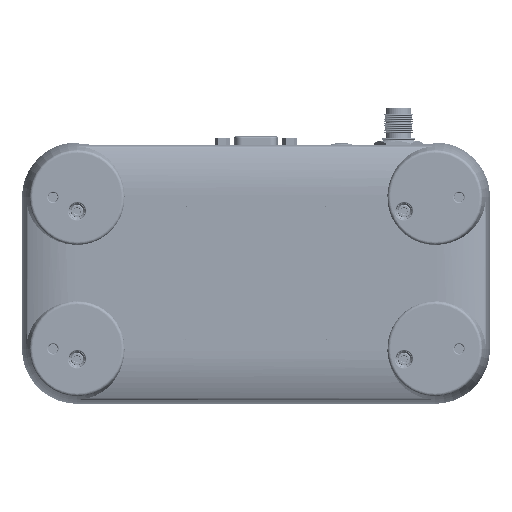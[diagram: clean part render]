
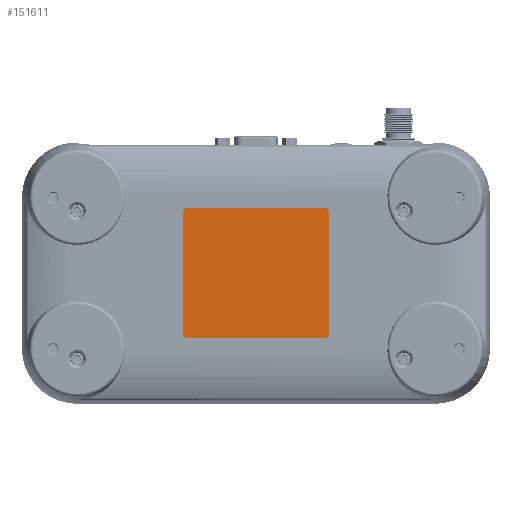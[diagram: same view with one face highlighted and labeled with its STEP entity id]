
A CAD part, front view. The second image highlights one B-rep face of the part: STEP entity #151611.
In plain terms, the highlighted planar face has unit normal (0, -1, 0) as drawn and (0, 1, 0) by its records, which use the part's own axes.
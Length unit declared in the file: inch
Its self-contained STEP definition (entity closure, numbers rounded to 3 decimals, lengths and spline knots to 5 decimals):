
#540 = DIRECTION ( 'NONE',  ( 0., 0., -1. ) ) ;
#1696 = EDGE_CURVE ( 'NONE', #85298, #3237, #230532, .T. ) ;
#2466 = EDGE_CURVE ( 'NONE', #247206, #195638, #137936, .T. ) ;
#3237 = VERTEX_POINT ( 'NONE', #233948 ) ;
#5310 = ORIENTED_EDGE ( 'NONE', *, *, #152542, .T. ) ;
#9139 = DIRECTION ( 'NONE',  ( 0., 0., 1. ) ) ;
#13984 = CIRCLE ( 'NONE', #230272, 0.06 ) ;
#15552 = VECTOR ( 'NONE', #118031, 39.37008 ) ;
#22999 = VECTOR ( 'NONE', #144436, 39.37008 ) ;
#29979 = CARTESIAN_POINT ( 'NONE',  ( 1., 0.01, 0.89 ) ) ;
#34295 = ORIENTED_EDGE ( 'NONE', *, *, #1696, .T. ) ;
#34479 = ORIENTED_EDGE ( 'NONE', *, *, #221594, .T. ) ;
#46403 = CARTESIAN_POINT ( 'NONE',  ( -1., 0.01, -0.89 ) ) ;
#49726 = DIRECTION ( 'NONE',  ( 0., 0., 1. ) ) ;
#52863 = DIRECTION ( 'NONE',  ( 0., -1., 0. ) ) ;
#56272 = VECTOR ( 'NONE', #220424, 39.37008 ) ;
#62445 = AXIS2_PLACEMENT_3D ( 'NONE', #244226, #126568, #9139 ) ;
#64290 = EDGE_CURVE ( 'NONE', #195638, #202511, #191218, .T. ) ;
#66123 = DIRECTION ( 'NONE',  ( 0., 0., -1. ) ) ;
#73639 = AXIS2_PLACEMENT_3D ( 'NONE', #29979, #167399, #49726 ) ;
#75192 = LINE ( 'NONE', #202758, #22999 ) ;
#78460 = CARTESIAN_POINT ( 'NONE',  ( 1.06, 0.01, -0.89 ) ) ;
#82461 = VERTEX_POINT ( 'NONE', #109639 ) ;
#85298 = VERTEX_POINT ( 'NONE', #187899 ) ;
#94945 = ORIENTED_EDGE ( 'NONE', *, *, #199359, .T. ) ;
#97461 = CARTESIAN_POINT ( 'NONE',  ( -1.06, 0.01, -0.89 ) ) ;
#97701 = CARTESIAN_POINT ( 'NONE',  ( 1., 0.01, -0.89 ) ) ;
#99568 = ORIENTED_EDGE ( 'NONE', *, *, #208052, .T. ) ;
#108525 = LINE ( 'NONE', #141433, #56272 ) ;
#109639 = CARTESIAN_POINT ( 'NONE',  ( 1., 0.01, -0.95 ) ) ;
#117420 = DIRECTION ( 'NONE',  ( 0., 0., 1. ) ) ;
#118031 = DIRECTION ( 'NONE',  ( 0., 0., 1. ) ) ;
#126568 = DIRECTION ( 'NONE',  ( 0., 1., 0. ) ) ;
#126653 = VECTOR ( 'NONE', #540, 39.37008 ) ;
#133988 = CARTESIAN_POINT ( 'NONE',  ( -1., 0.01, 0.95 ) ) ;
#137936 = CIRCLE ( 'NONE', #73639, 0.06 ) ;
#141433 = CARTESIAN_POINT ( 'NONE',  ( -1., 0.01, 0.95 ) ) ;
#144436 = DIRECTION ( 'NONE',  ( -1., 0., 0. ) ) ;
#147736 = VERTEX_POINT ( 'NONE', #221712 ) ;
#151611 = ADVANCED_FACE ( 'NONE', ( #161520 ), #208307, .F. ) ;
#152542 = EDGE_CURVE ( 'NONE', #214428, #247206, #108525, .T. ) ;
#161520 = FACE_OUTER_BOUND ( 'NONE', #189077, .T. ) ;
#164038 = CARTESIAN_POINT ( 'NONE',  ( 1.06, 0.01, 0.89 ) ) ;
#167399 = DIRECTION ( 'NONE',  ( 0., 1., 0. ) ) ;
#170481 = CARTESIAN_POINT ( 'NONE',  ( -1., 0.01, -0.89 ) ) ;
#172731 = ORIENTED_EDGE ( 'NONE', *, *, #2466, .T. ) ;
#174546 = CARTESIAN_POINT ( 'NONE',  ( 1.06, 0.01, -0.89 ) ) ;
#179638 = CARTESIAN_POINT ( 'NONE',  ( 1., 0.01, 0.95 ) ) ;
#182558 = CIRCLE ( 'NONE', #246506, 0.06 ) ;
#183770 = DIRECTION ( 'NONE',  ( 0., 1., 0. ) ) ;
#187899 = CARTESIAN_POINT ( 'NONE',  ( -1.06, 0.01, -0.89 ) ) ;
#189077 = EDGE_LOOP ( 'NONE', ( #94945, #34295, #99568, #5310, #172731, #204335, #34479, #232633 ) ) ;
#190190 = DIRECTION ( 'NONE',  ( 0., 0., -1. ) ) ;
#191218 = LINE ( 'NONE', #78460, #126653 ) ;
#195638 = VERTEX_POINT ( 'NONE', #164038 ) ;
#199359 = EDGE_CURVE ( 'NONE', #147736, #85298, #182558, .T. ) ;
#202511 = VERTEX_POINT ( 'NONE', #174546 ) ;
#202758 = CARTESIAN_POINT ( 'NONE',  ( -1., 0.01, -0.95 ) ) ;
#204335 = ORIENTED_EDGE ( 'NONE', *, *, #64290, .T. ) ;
#208052 = EDGE_CURVE ( 'NONE', #3237, #214428, #249086, .T. ) ;
#208307 = PLANE ( 'NONE',  #216021 ) ;
#214428 = VERTEX_POINT ( 'NONE', #133988 ) ;
#216021 = AXIS2_PLACEMENT_3D ( 'NONE', #170481, #52863, #190190 ) ;
#220424 = DIRECTION ( 'NONE',  ( 1., 0., 0. ) ) ;
#221594 = EDGE_CURVE ( 'NONE', #202511, #82461, #13984, .T. ) ;
#221712 = CARTESIAN_POINT ( 'NONE',  ( -1., 0.01, -0.95 ) ) ;
#230272 = AXIS2_PLACEMENT_3D ( 'NONE', #97701, #234992, #117420 ) ;
#230532 = LINE ( 'NONE', #97461, #15552 ) ;
#232633 = ORIENTED_EDGE ( 'NONE', *, *, #247322, .T. ) ;
#233948 = CARTESIAN_POINT ( 'NONE',  ( -1.06, 0.01, 0.89 ) ) ;
#234992 = DIRECTION ( 'NONE',  ( 0., 1., 0. ) ) ;
#244226 = CARTESIAN_POINT ( 'NONE',  ( -1., 0.01, 0.89 ) ) ;
#246506 = AXIS2_PLACEMENT_3D ( 'NONE', #46403, #183770, #66123 ) ;
#247206 = VERTEX_POINT ( 'NONE', #179638 ) ;
#247322 = EDGE_CURVE ( 'NONE', #82461, #147736, #75192, .T. ) ;
#249086 = CIRCLE ( 'NONE', #62445, 0.06 ) ;
